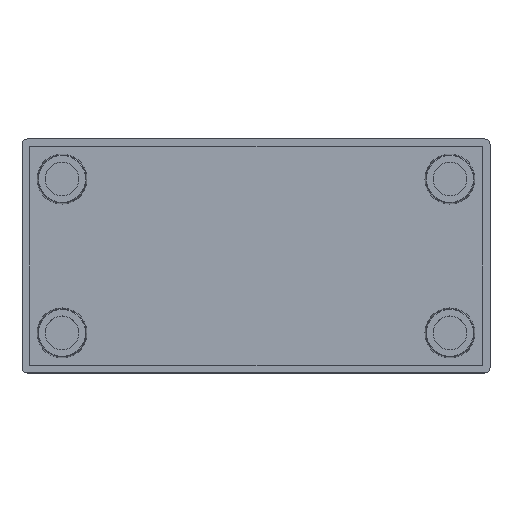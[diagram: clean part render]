
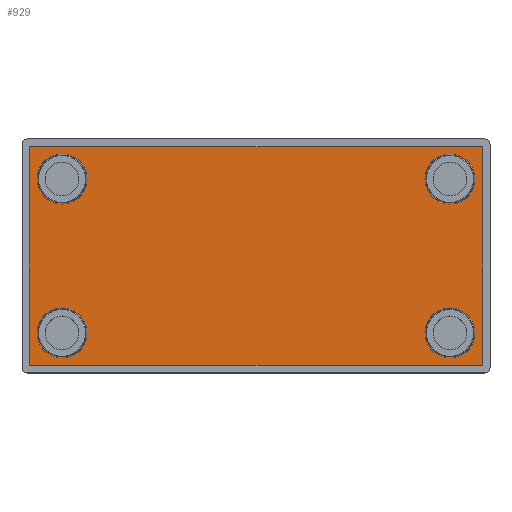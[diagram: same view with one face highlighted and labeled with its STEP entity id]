
A CAD part, top view. The second image highlights one B-rep face of the part: STEP entity #929.
In plain terms, the highlighted planar face has unit normal (0, 0, 1).
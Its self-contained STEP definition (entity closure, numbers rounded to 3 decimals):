
#6 = EDGE_CURVE ( 'NONE', #396, #1084, #1690, .T. ) ;
#9 = VERTEX_POINT ( 'NONE', #1207 ) ;
#19 = EDGE_CURVE ( 'NONE', #1084, #396, #825, .T. ) ;
#39 = FACE_BOUND ( 'NONE', #1681, .T. ) ;
#42 = CIRCLE ( 'NONE', #1406, 4.8 ) ;
#57 = ORIENTED_EDGE ( 'NONE', *, *, #452, .F. ) ;
#102 = LINE ( 'NONE', #1202, #559 ) ;
#109 = CARTESIAN_POINT ( 'NONE',  ( -37.3, -14.8, 1.5 ) ) ;
#112 = LINE ( 'NONE', #464, #1723 ) ;
#123 = EDGE_CURVE ( 'NONE', #293, #521, #1624, .T. ) ;
#145 = DIRECTION ( 'NONE',  ( 0., 0., 1. ) ) ;
#165 = CIRCLE ( 'NONE', #328, 4.8 ) ;
#216 = VERTEX_POINT ( 'NONE', #795 ) ;
#217 = FACE_BOUND ( 'NONE', #788, .T. ) ;
#238 = CARTESIAN_POINT ( 'NONE',  ( -32.5, 14.8, 1.5 ) ) ;
#264 = DIRECTION ( 'NONE',  ( 0., 0., 1. ) ) ;
#274 = AXIS2_PLACEMENT_3D ( 'NONE', #872, #987, #1290 ) ;
#293 = VERTEX_POINT ( 'NONE', #1527 ) ;
#316 = VERTEX_POINT ( 'NONE', #1563 ) ;
#328 = AXIS2_PLACEMENT_3D ( 'NONE', #750, #1492, #630 ) ;
#351 = ORIENTED_EDGE ( 'NONE', *, *, #1009, .T. ) ;
#353 = CIRCLE ( 'NONE', #1294, 4.8 ) ;
#356 = EDGE_CURVE ( 'NONE', #9, #216, #581, .T. ) ;
#396 = VERTEX_POINT ( 'NONE', #923 ) ;
#402 = DIRECTION ( 'NONE',  ( -1., 0., 0. ) ) ;
#403 = DIRECTION ( 'NONE',  ( -1., 0., 0. ) ) ;
#413 = DIRECTION ( 'NONE',  ( 0., 0., 1. ) ) ;
#417 = ORIENTED_EDGE ( 'NONE', *, *, #809, .F. ) ;
#437 = CARTESIAN_POINT ( 'NONE',  ( 32.5, 14.8, 1.5 ) ) ;
#446 = DIRECTION ( 'NONE',  ( -1., 0., 0. ) ) ;
#449 = VERTEX_POINT ( 'NONE', #238 ) ;
#452 = EDGE_CURVE ( 'NONE', #521, #293, #680, .T. ) ;
#461 = CARTESIAN_POINT ( 'NONE',  ( -37.3, -14.8, 1.5 ) ) ;
#464 = CARTESIAN_POINT ( 'NONE',  ( -43.5, 21., 1.5 ) ) ;
#466 = AXIS2_PLACEMENT_3D ( 'NONE', #109, #891, #1534 ) ;
#521 = VERTEX_POINT ( 'NONE', #1453 ) ;
#536 = DIRECTION ( 'NONE',  ( 0., 0., 1. ) ) ;
#548 = CARTESIAN_POINT ( 'NONE',  ( -37.3, 14.8, 1.5 ) ) ;
#558 = CARTESIAN_POINT ( 'NONE',  ( 37.3, 14.8, 1.5 ) ) ;
#559 = VECTOR ( 'NONE', #1720, 1000. ) ;
#565 = ORIENTED_EDGE ( 'NONE', *, *, #726, .F. ) ;
#581 = LINE ( 'NONE', #596, #1528 ) ;
#596 = CARTESIAN_POINT ( 'NONE',  ( -43.5, -21., 1.5 ) ) ;
#630 = DIRECTION ( 'NONE',  ( -1., 0., 0. ) ) ;
#632 = DIRECTION ( 'NONE',  ( 0., -1., 0. ) ) ;
#680 = CIRCLE ( 'NONE', #1523, 4.8 ) ;
#726 = EDGE_CURVE ( 'NONE', #316, #449, #42, .T. ) ;
#750 = CARTESIAN_POINT ( 'NONE',  ( 37.3, 14.8, 1.5 ) ) ;
#752 = AXIS2_PLACEMENT_3D ( 'NONE', #558, #413, #403 ) ;
#788 = EDGE_LOOP ( 'NONE', ( #1353, #1331 ) ) ;
#795 = CARTESIAN_POINT ( 'NONE',  ( -43.5, -21., 1.5 ) ) ;
#809 = EDGE_CURVE ( 'NONE', #837, #1010, #842, .T. ) ;
#825 = CIRCLE ( 'NONE', #1394, 4.8 ) ;
#837 = VERTEX_POINT ( 'NONE', #1017 ) ;
#842 = CIRCLE ( 'NONE', #752, 4.8 ) ;
#872 = CARTESIAN_POINT ( 'NONE',  ( 0., 0., 1.5 ) ) ;
#878 = EDGE_CURVE ( 'NONE', #449, #316, #353, .T. ) ;
#882 = ORIENTED_EDGE ( 'NONE', *, *, #356, .T. ) ;
#890 = PLANE ( 'NONE',  #274 ) ;
#891 = DIRECTION ( 'NONE',  ( 0., 0., 1. ) ) ;
#917 = VERTEX_POINT ( 'NONE', #1016 ) ;
#923 = CARTESIAN_POINT ( 'NONE',  ( 32.5, -14.8, 1.5 ) ) ;
#929 = ADVANCED_FACE ( 'NONE', ( #217, #39, #1194, #1358, #1038 ), #890, .F. ) ;
#962 = DIRECTION ( 'NONE',  ( -1., 0., 0. ) ) ;
#987 = DIRECTION ( 'NONE',  ( 0., 0., -1. ) ) ;
#1009 = EDGE_CURVE ( 'NONE', #1605, #9, #112, .T. ) ;
#1010 = VERTEX_POINT ( 'NONE', #437 ) ;
#1016 = CARTESIAN_POINT ( 'NONE',  ( 43.5, -21., 1.5 ) ) ;
#1017 = CARTESIAN_POINT ( 'NONE',  ( 42.1, 14.8, 1.5 ) ) ;
#1038 = FACE_OUTER_BOUND ( 'NONE', #1191, .T. ) ;
#1060 = EDGE_LOOP ( 'NONE', ( #1669, #57 ) ) ;
#1073 = CARTESIAN_POINT ( 'NONE',  ( 37.3, -14.8, 1.5 ) ) ;
#1084 = VERTEX_POINT ( 'NONE', #1637 ) ;
#1115 = DIRECTION ( 'NONE',  ( 0., 1., 0. ) ) ;
#1126 = EDGE_CURVE ( 'NONE', #1010, #837, #165, .T. ) ;
#1170 = EDGE_CURVE ( 'NONE', #216, #917, #102, .T. ) ;
#1191 = EDGE_LOOP ( 'NONE', ( #1576, #351, #882, #1687 ) ) ;
#1194 = FACE_BOUND ( 'NONE', #1060, .T. ) ;
#1202 = CARTESIAN_POINT ( 'NONE',  ( -43.5, -21., 1.5 ) ) ;
#1207 = CARTESIAN_POINT ( 'NONE',  ( -43.5, 21., 1.5 ) ) ;
#1253 = CARTESIAN_POINT ( 'NONE',  ( 43.5, 21., 1.5 ) ) ;
#1264 = DIRECTION ( 'NONE',  ( 0., 0., 1. ) ) ;
#1270 = DIRECTION ( 'NONE',  ( 0., 0., 1. ) ) ;
#1286 = DIRECTION ( 'NONE',  ( -1., 0., 0. ) ) ;
#1290 = DIRECTION ( 'NONE',  ( -1., 0., 0. ) ) ;
#1294 = AXIS2_PLACEMENT_3D ( 'NONE', #1657, #1264, #1286 ) ;
#1306 = DIRECTION ( 'NONE',  ( -1., 0., 0. ) ) ;
#1308 = AXIS2_PLACEMENT_3D ( 'NONE', #1320, #145, #962 ) ;
#1320 = CARTESIAN_POINT ( 'NONE',  ( 37.3, -14.8, 1.5 ) ) ;
#1331 = ORIENTED_EDGE ( 'NONE', *, *, #19, .F. ) ;
#1349 = ORIENTED_EDGE ( 'NONE', *, *, #878, .F. ) ;
#1353 = ORIENTED_EDGE ( 'NONE', *, *, #6, .F. ) ;
#1358 = FACE_BOUND ( 'NONE', #1419, .T. ) ;
#1372 = DIRECTION ( 'NONE',  ( -1., 0., 0. ) ) ;
#1394 = AXIS2_PLACEMENT_3D ( 'NONE', #1073, #264, #402 ) ;
#1406 = AXIS2_PLACEMENT_3D ( 'NONE', #548, #536, #1306 ) ;
#1419 = EDGE_LOOP ( 'NONE', ( #565, #1349 ) ) ;
#1424 = EDGE_CURVE ( 'NONE', #917, #1605, #1545, .T. ) ;
#1442 = VECTOR ( 'NONE', #1115, 1000. ) ;
#1453 = CARTESIAN_POINT ( 'NONE',  ( -32.5, -14.8, 1.5 ) ) ;
#1492 = DIRECTION ( 'NONE',  ( 0., 0., 1. ) ) ;
#1523 = AXIS2_PLACEMENT_3D ( 'NONE', #461, #1270, #1372 ) ;
#1527 = CARTESIAN_POINT ( 'NONE',  ( -42.1, -14.8, 1.5 ) ) ;
#1528 = VECTOR ( 'NONE', #632, 1000. ) ;
#1534 = DIRECTION ( 'NONE',  ( -1., 0., 0. ) ) ;
#1545 = LINE ( 'NONE', #1677, #1442 ) ;
#1563 = CARTESIAN_POINT ( 'NONE',  ( -42.1, 14.8, 1.5 ) ) ;
#1576 = ORIENTED_EDGE ( 'NONE', *, *, #1424, .T. ) ;
#1605 = VERTEX_POINT ( 'NONE', #1253 ) ;
#1624 = CIRCLE ( 'NONE', #466, 4.8 ) ;
#1637 = CARTESIAN_POINT ( 'NONE',  ( 42.1, -14.8, 1.5 ) ) ;
#1653 = ORIENTED_EDGE ( 'NONE', *, *, #1126, .F. ) ;
#1657 = CARTESIAN_POINT ( 'NONE',  ( -37.3, 14.8, 1.5 ) ) ;
#1669 = ORIENTED_EDGE ( 'NONE', *, *, #123, .F. ) ;
#1677 = CARTESIAN_POINT ( 'NONE',  ( 43.5, -21., 1.5 ) ) ;
#1681 = EDGE_LOOP ( 'NONE', ( #1653, #417 ) ) ;
#1687 = ORIENTED_EDGE ( 'NONE', *, *, #1170, .T. ) ;
#1690 = CIRCLE ( 'NONE', #1308, 4.8 ) ;
#1720 = DIRECTION ( 'NONE',  ( 1., 0., 0. ) ) ;
#1723 = VECTOR ( 'NONE', #446, 1000. ) ;
